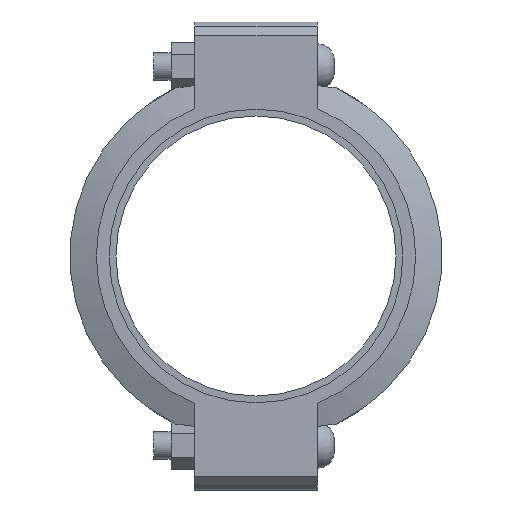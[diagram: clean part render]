
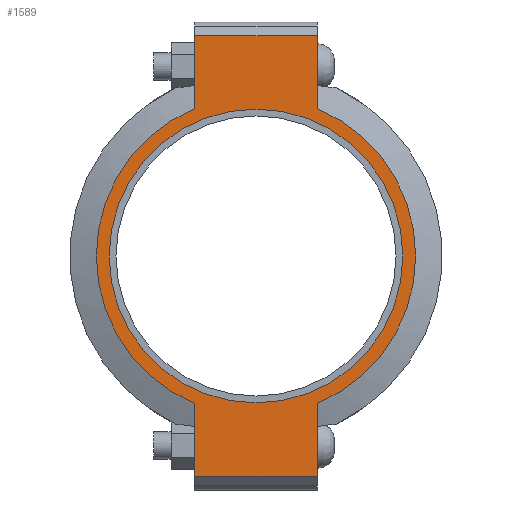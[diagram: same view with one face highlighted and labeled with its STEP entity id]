
A CAD part, left-side view. The second image highlights one B-rep face of the part: STEP entity #1589.
In plain terms, the highlighted planar face has unit normal (-1, 0, 0) as drawn and (0, 0, 1) by its records, which use the part's own axes.
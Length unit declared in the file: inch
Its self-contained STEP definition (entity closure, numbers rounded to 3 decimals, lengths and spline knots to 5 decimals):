
#160=LINE('',#2745,#249);
#171=LINE('',#2796,#260);
#177=LINE('',#2822,#266);
#179=LINE('',#2825,#268);
#180=LINE('',#2830,#269);
#181=LINE('',#2831,#270);
#249=VECTOR('',#2241,0.3937);
#260=VECTOR('',#2272,0.3937);
#266=VECTOR('',#2290,0.3937);
#268=VECTOR('',#2294,0.3937);
#269=VECTOR('',#2299,0.3937);
#270=VECTOR('',#2300,0.3937);
#332=FACE_BOUND('',#509,.T.);
#400=FACE_OUTER_BOUND('',#508,.T.);
#508=EDGE_LOOP('',(#1284,#1285,#1286,#1287,#1288,#1289,#1290,#1291));
#509=EDGE_LOOP('',(#1292));
#591=CIRCLE('',#1817,5.375);
#615=CIRCLE('',#1869,5.845);
#616=CIRCLE('',#1870,5.845);
#687=VERTEX_POINT('',#2571);
#728=VERTEX_POINT('',#2742);
#729=VERTEX_POINT('',#2744);
#746=VERTEX_POINT('',#2791);
#747=VERTEX_POINT('',#2795);
#754=VERTEX_POINT('',#2817);
#755=VERTEX_POINT('',#2821);
#756=VERTEX_POINT('',#2827);
#757=VERTEX_POINT('',#2829);
#851=EDGE_CURVE('',#687,#687,#591,.T.);
#908=EDGE_CURVE('',#729,#728,#160,.T.);
#929=EDGE_CURVE('',#747,#746,#171,.T.);
#940=EDGE_CURVE('',#755,#754,#177,.T.);
#942=EDGE_CURVE('',#755,#728,#179,.T.);
#943=EDGE_CURVE('',#754,#756,#615,.T.);
#944=EDGE_CURVE('',#756,#757,#180,.T.);
#945=EDGE_CURVE('',#747,#757,#181,.T.);
#946=EDGE_CURVE('',#746,#729,#616,.T.);
#1284=ORIENTED_EDGE('',*,*,#942,.F.);
#1285=ORIENTED_EDGE('',*,*,#940,.T.);
#1286=ORIENTED_EDGE('',*,*,#943,.T.);
#1287=ORIENTED_EDGE('',*,*,#944,.T.);
#1288=ORIENTED_EDGE('',*,*,#945,.F.);
#1289=ORIENTED_EDGE('',*,*,#929,.T.);
#1290=ORIENTED_EDGE('',*,*,#946,.T.);
#1291=ORIENTED_EDGE('',*,*,#908,.T.);
#1292=ORIENTED_EDGE('',*,*,#851,.T.);
#1429=PLANE('',#1868);
#1589=ADVANCED_FACE('',(#400,#332),#1429,.T.);
#1817=AXIS2_PLACEMENT_3D('',#2573,#2131,#2132);
#1868=AXIS2_PLACEMENT_3D('',#2826,#2295,#2296);
#1869=AXIS2_PLACEMENT_3D('',#2828,#2297,#2298);
#1870=AXIS2_PLACEMENT_3D('',#2832,#2301,#2302);
#2131=DIRECTION('center_axis',(0.,0.,-1.));
#2132=DIRECTION('ref_axis',(-1.,0.,0.));
#2241=DIRECTION('',(-1.,0.,0.));
#2272=DIRECTION('',(-1.,0.,0.));
#2290=DIRECTION('',(1.,0.,0.));
#2294=DIRECTION('',(0.,1.,0.));
#2295=DIRECTION('center_axis',(0.,0.,1.));
#2296=DIRECTION('ref_axis',(1.,0.,0.));
#2297=DIRECTION('center_axis',(0.,0.,1.));
#2298=DIRECTION('ref_axis',(-1.,0.,0.));
#2299=DIRECTION('',(1.,0.,0.));
#2300=DIRECTION('',(0.,-1.,0.));
#2301=DIRECTION('center_axis',(0.,0.,1.));
#2302=DIRECTION('ref_axis',(-1.,0.,0.));
#2571=CARTESIAN_POINT('',(5.375,0.,1.315));
#2573=CARTESIAN_POINT('Origin',(0.,0.,1.315));
#2742=CARTESIAN_POINT('',(-8.065,2.25,1.315));
#2744=CARTESIAN_POINT('',(-5.39458,2.25,1.315));
#2745=CARTESIAN_POINT('',(8.565,2.25,1.315));
#2791=CARTESIAN_POINT('',(5.39458,2.25,1.315));
#2795=CARTESIAN_POINT('',(8.065,2.25,1.315));
#2796=CARTESIAN_POINT('',(8.565,2.25,1.315));
#2817=CARTESIAN_POINT('',(-5.39458,-2.25,1.315));
#2821=CARTESIAN_POINT('',(-8.065,-2.25,1.315));
#2822=CARTESIAN_POINT('',(-8.565,-2.25,1.315));
#2825=CARTESIAN_POINT('',(-8.065,1.125,1.315));
#2826=CARTESIAN_POINT('Origin',(0.,0.,
1.315));
#2827=CARTESIAN_POINT('',(5.39458,-2.25,1.315));
#2828=CARTESIAN_POINT('Origin',(0.,0.,1.315));
#2829=CARTESIAN_POINT('',(8.065,-2.25,1.315));
#2830=CARTESIAN_POINT('',(-8.565,-2.25,1.315));
#2831=CARTESIAN_POINT('',(8.065,-1.125,1.315));
#2832=CARTESIAN_POINT('Origin',(0.,0.,1.315));
